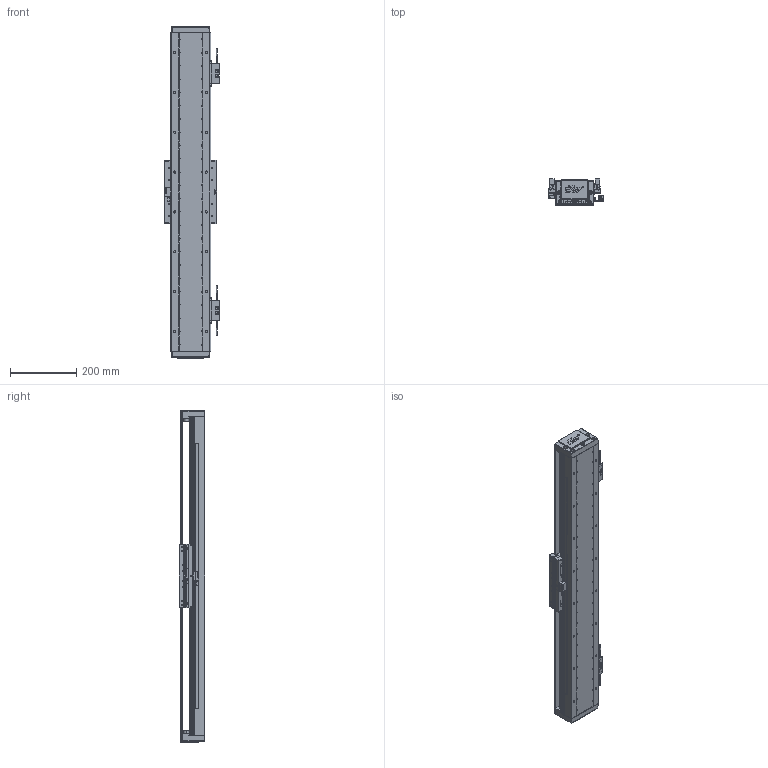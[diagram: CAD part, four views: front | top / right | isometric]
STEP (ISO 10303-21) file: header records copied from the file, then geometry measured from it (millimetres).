
FILE_DESCRIPTION (( 'STEP AP203' ), '1' );
FILE_NAME ('DA-B115-B2-T720-C010-0.2-HG-29573.STEP', '2024-11-14T09:28:46', ( '微软用户' ), ( '微软中国' ), 'SwSTEP 2.0', 'SolidWorks 2019', '' );
FILE_SCHEMA (( 'CONFIG_CONTROL_DESIGN' ));
Length unit declared in the file: millimetre
Products named in the file (26): 66245-BU115-HT-M-01 賑雄怢啣; 复件 DA95-B2-YB-B-00 压板B^BU115-M  滚珠滑台; 复件 DA95-MFP-01 密封片^BU115-M  滚珠滑台; BU115 XD-U-02L ｴﾅﾕ､ｳﾟ^DA-B115-B2-T720-C010-0.2-HG-29573_BU115; DA-B115-B2-T720-C010-0.2-HG-29573; 葩璃 DA95-B2-DP-A-00 菜えA^BU115-M  幗紩賑怢; 葩璃 BKM01C-W075-TRL^DA-B115-B2-T720-C010-0.2-HG-29573; 葩璃 BKM02-W075-C1C2-TP-DA-0.2 ^DA-B115-B2-T720-C010-0.2-HG-29573; 66245-BU115-M-00  珨极趙賑雄怢啣; 17414-0001-001-00 嫖萇覜茼え; 葩璃 DMA-010-0.2 黍杅芛^DA-B115-B2-T720-C010-0.2-HG-29573; 复件 DA95-B2-GT-00 滑块钢轨^66245-BU115-M-00  一体化滑动台板; 葩璃 DA115-T-002-00 裔啣^DA-B115-B2-T720-C010-0.2-HG-29573_DA115; BU115-M  幗紩賑怢; 复件 DA95-B2-DK-00 挡块^BU115-M  滚珠滑台; 22746-0001-003-00 換覜ん嘐隅啣; 葩璃 DA115-DG-H-01傷裔; 葩璃 DA95-GT-T-00 菁釱詩寢_T600; 复件 DA95-B2-YB-A-00 压板A^BU115-M  滚珠滑台; 葩璃 DA95-B2-DP-B-00 菜えB^BU115-M  幗紩賑怢; 23519-0000-002-00 菁釱_L960; 23519-0000-001-00 菁釱絳寢; PM-Y65嫖萇羲壽郪璃_00; 复件 DA95-DB-00  挡板^BU115-M  滚珠滑台; 葩璃 DA95-HXJ-00 遣喳砎蝶^DA-B115-B2-T720-C010-0.2-HG-29573; 复件 纯铜油杯 6x6mm^BU115-M  滚珠滑台
Assembly tree (49 placements, depth 4):
  DA-B115-B2-T720-C010-0.2-HG-29573
    23519-0000-001-00 菁釱絳寢
      23519-0000-002-00 菁釱_L960
      葩璃 DA95-GT-T-00 菁釱詩寢_T600  x2
    BU115 XD-U-02L ｴﾅﾕ､ｳﾟ^DA-B115-B2-T720-C010-0.2-HG-29573_BU115
    葩璃 BKM01C-W075-TRL^DA-B115-B2-T720-C010-0.2-HG-29573
    葩璃 DA115-T-002-00 裔啣^DA-B115-B2-T720-C010-0.2-HG-29573_DA115
    葩璃 DA95-HXJ-00 遣喳砎蝶^DA-B115-B2-T720-C010-0.2-HG-29573  x4
    葩璃 DMA-010-0.2 黍杅芛^DA-B115-B2-T720-C010-0.2-HG-29573
    葩璃 BKM02-W075-C1C2-TP-DA-0.2 ^DA-B115-B2-T720-C010-0.2-HG-29573
    BU115-M  幗紩賑怢
      葩璃 DA95-B2-DP-B-00 菜えB^BU115-M  幗紩賑怢  x2
      复件 DA95-B2-YB-B-00 压板B^BU115-M  滚珠滑台  x2
      复件 DA95-B2-DK-00 挡块^BU115-M  滚珠滑台  x3
      复件 DA95-DB-00  挡板^BU115-M  滚珠滑台  x4
      复件 DA95-MFP-01 密封片^BU115-M  滚珠滑台  x4
      复件 纯铜油杯 6x6mm^BU115-M  滚珠滑台  x4
      66245-BU115-M-00  珨极趙賑雄怢啣
        66245-BU115-HT-M-01 賑雄怢啣
        复件 DA95-B2-GT-00 滑块钢轨^66245-BU115-M-00  一体化滑动台板  x4
      复件 DA95-B2-YB-A-00 压板A^BU115-M  滚珠滑台
      葩璃 DA95-B2-DP-A-00 菜えA^BU115-M  幗紩賑怢
    葩璃 DA115-DG-H-01傷裔  x2
    17414-0001-001-00 嫖萇覜茼え
    22746-0001-003-00 換覜ん嘐隅啣  x2
    PM-Y65嫖萇羲壽郪璃_00  x3
Bounding box: 164.2 x 78 x 1000 mm (x, y, z)
Volume: 4632747.9 mm3; surface area: 1489264.8 mm2
Topology: 50 solids, 50 shells, 4120 faces, 10991 edges, 6878 vertices
Faces by surface type: plane 1626, cylinder 1602, bspline 448, cone 390, torus 42, sphere 12
Entity records: 100085 total; most frequent: CARTESIAN_POINT 29673, ORIENTED_EDGE 14302, DIRECTION 13663, EDGE_CURVE 7151, AXIS2_PLACEMENT_3D 4987, VERTEX_POINT 4558, VECTOR 3689, LINE 3689
